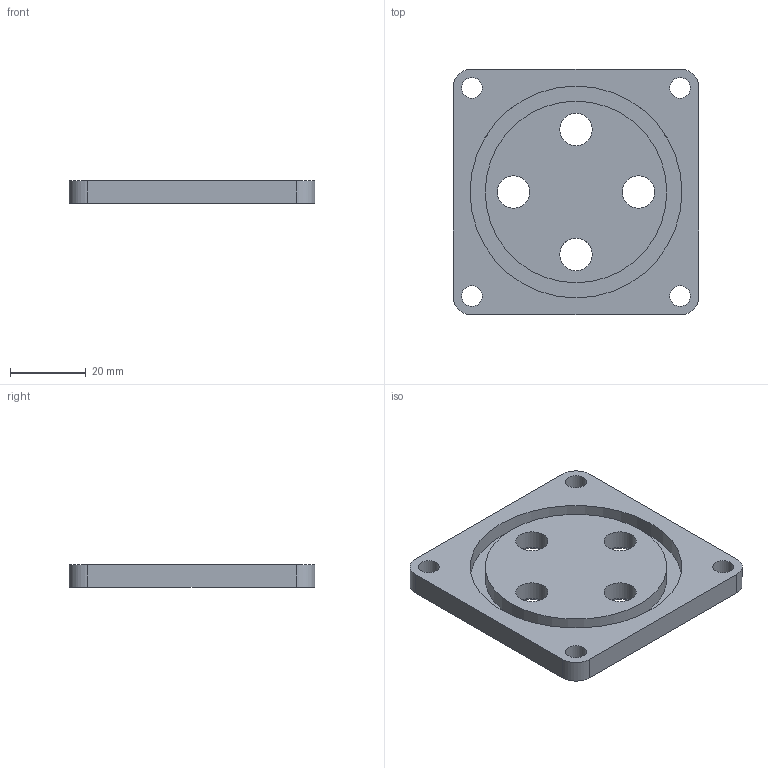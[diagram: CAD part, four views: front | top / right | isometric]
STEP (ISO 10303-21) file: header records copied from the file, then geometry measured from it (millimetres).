
FILE_DESCRIPTION(('STEP AP203'), '1');
FILE_NAME('眐珆1801.01.07.03.101 - 婑鳧氀', '', ('UNSPECIFIED'), ('UNSPECIFIED'), 'C3D Converter', 'C3D Toolkit', '');
FILE_SCHEMA(('CONFIG_CONTROL_DESIGN'));
Length unit declared in the file: millimetre
Products named in the file (1): ТППФ1801.01.07.03.101
Bounding box: 65 x 65 x 6 mm (x, y, z)
Volume: 20596 mm3; surface area: 11574.1 mm2
Topology: 1 solids, 1 shells, 26 faces, 62 edges, 40 vertices
Faces by surface type: cylinder 14, plane 8, cone 4
Full cylindrical faces by diameter (mm): 5.5 x4, 8.566 x4, 48 x1, 56 x1
Entity records: 976 total; most frequent: DIRECTION 134, CARTESIAN_POINT 115, ORIENTED_EDGE 96, AXIS2_PLACEMENT_3D 59, EDGE_LOOP 58, EDGE_CURVE 48, VERTEX_POINT 40, CIRCLE 32
